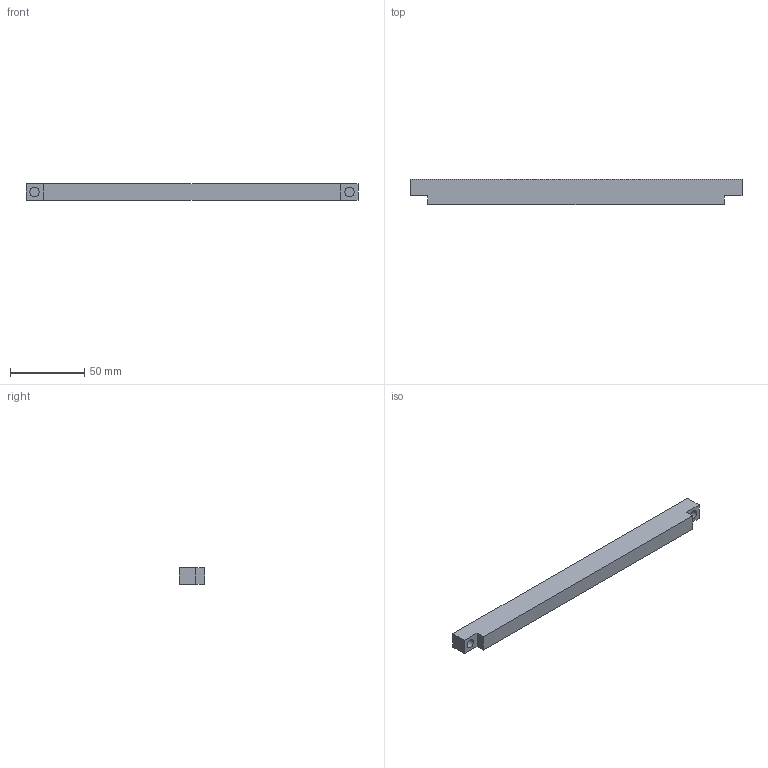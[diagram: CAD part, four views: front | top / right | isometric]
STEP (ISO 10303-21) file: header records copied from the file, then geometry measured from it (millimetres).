
FILE_DESCRIPTION(('Open CASCADE Model'),'2;1');
FILE_NAME('Open CASCADE Shape Model','2026-10-27T02:33:58',('Author'),( 'Open CASCADE'),'Open CASCADE STEP processor 7.9','Open CASCADE 7.9' ,'Unknown');
FILE_SCHEMA(('AUTOMOTIVE_DESIGN { 1 0 10303 214 1 1 1 1 }'));
Length unit declared in the file: millimetre
Products named in the file (1): Open CASCADE STEP translator 7.9 6
Bounding box: 223.4 x 17 x 11 mm (x, y, z)
Volume: 39548.4 mm3; surface area: 12998.5 mm2
Topology: 1 solids, 1 shells, 14 faces, 30 edges, 20 vertices
Faces by surface type: plane 12, cylinder 2
Full cylindrical faces by diameter (mm): 6.4 x2
Entity records: 784 total; most frequent: CARTESIAN_POINT 137, DIRECTION 122, LINE 82, VECTOR 82, ORIENTED_EDGE 60, PCURVE 60, DEFINITIONAL_REPRESENTATION 60, EDGE_CURVE 30
